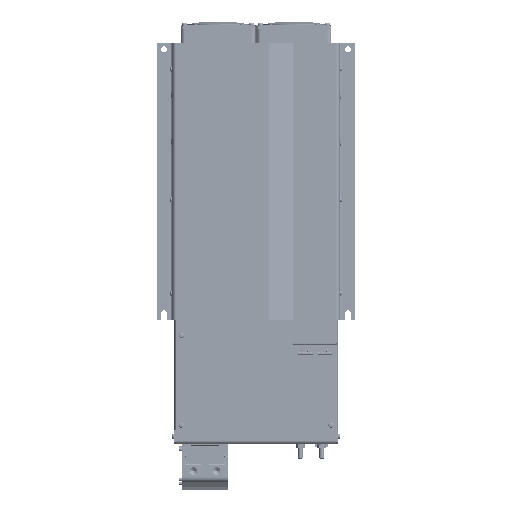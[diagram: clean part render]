
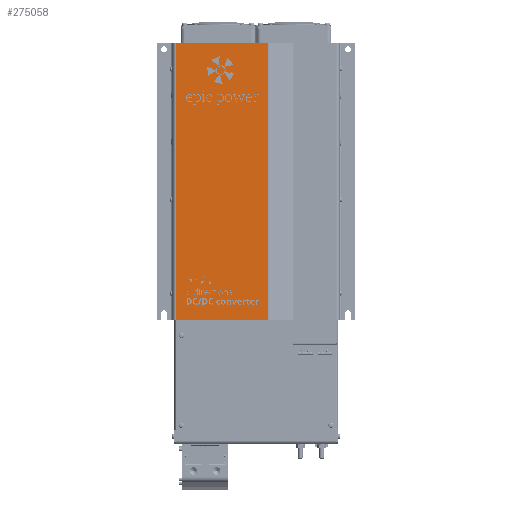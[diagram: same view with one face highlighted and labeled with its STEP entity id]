
A CAD part, front view. The second image highlights one B-rep face of the part: STEP entity #275058.
In plain terms, the highlighted planar face has unit normal (0, -1, 0) as drawn and (-1, 0, 0) by its records, which use the part's own axes.
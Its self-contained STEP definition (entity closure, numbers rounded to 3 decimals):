
#6930=LINE('',#455299,#40755);
#6938=LINE('',#455324,#40763);
#6947=LINE('',#455358,#40772);
#6948=LINE('',#455359,#40773);
#40755=VECTOR('',#380358,1000.);
#40763=VECTOR('',#380380,1000.);
#40772=VECTOR('',#380409,1000.);
#40773=VECTOR('',#380410,1000.);
#74777=ORIENTED_EDGE('',*,*,#155917,.T.);
#74778=ORIENTED_EDGE('',*,*,#155935,.T.);
#74779=ORIENTED_EDGE('',*,*,#155904,.F.);
#74780=ORIENTED_EDGE('',*,*,#155936,.T.);
#155904=EDGE_CURVE('',#196484,#196485,#6930,.T.);
#155917=EDGE_CURVE('',#196495,#196494,#6938,.T.);
#155935=EDGE_CURVE('',#196494,#196485,#6947,.T.);
#155936=EDGE_CURVE('',#196484,#196495,#6948,.T.);
#196484=VERTEX_POINT('',#455298);
#196485=VERTEX_POINT('',#455300);
#196494=VERTEX_POINT('',#455323);
#196495=VERTEX_POINT('',#455325);
#227964=EDGE_LOOP('',(#74777,#74778,#74779,#74780));
#245513=FACE_BOUND('',#227964,.T.);
#262976=PLANE('',#359579);
#275058=ADVANCED_FACE('',(#245513),#262976,.F.);
#359579=AXIS2_PLACEMENT_3D('',#455357,#380407,#380408);
#380358=DIRECTION('',(0.,1.,0.));
#380380=DIRECTION('',(0.,1.,0.));
#380407=DIRECTION('',(1.,0.,0.));
#380408=DIRECTION('',(0.,1.,0.));
#380409=DIRECTION('',(0.,0.,-1.));
#380410=DIRECTION('',(0.,0.,1.));
#455298=CARTESIAN_POINT('',(-86.498,74.173,-148.));
#455299=CARTESIAN_POINT('',(-86.498,73.73,-148.));
#455300=CARTESIAN_POINT('',(-86.498,173.,-148.));
#455323=CARTESIAN_POINT('',(-86.498,173.,148.));
#455324=CARTESIAN_POINT('',(-86.498,73.73,148.));
#455325=CARTESIAN_POINT('',(-86.498,74.173,148.));
#455357=CARTESIAN_POINT('',(-86.498,73.73,-148.));
#455358=CARTESIAN_POINT('',(-86.498,173.,148.));
#455359=CARTESIAN_POINT('',(-86.498,74.173,-148.));
